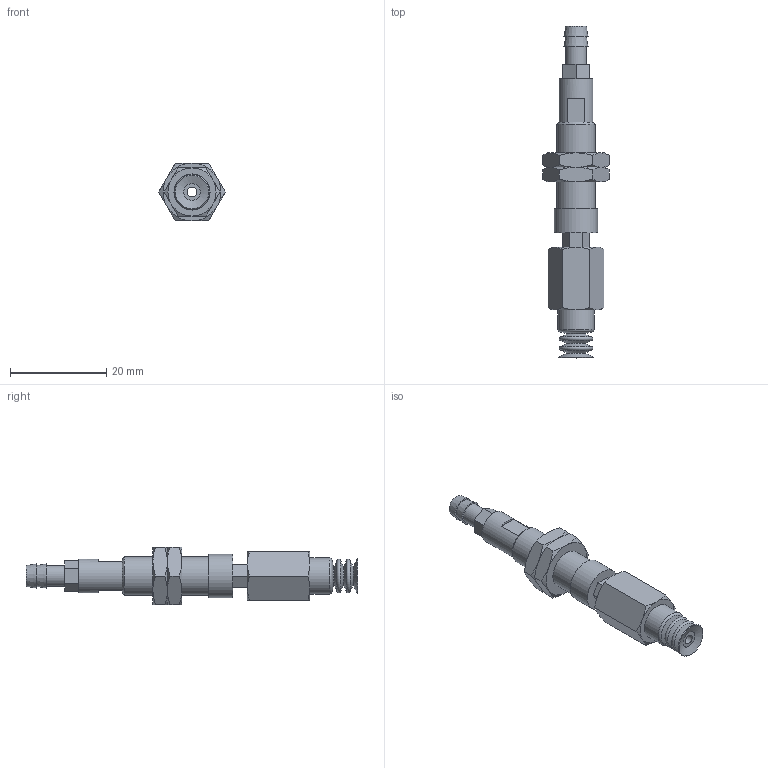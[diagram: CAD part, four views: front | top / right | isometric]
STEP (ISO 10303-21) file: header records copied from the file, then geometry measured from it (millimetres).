
FILE_DESCRIPTION(('STEP AP203'),'1');
FILE_NAME('-T.stp','2025-08-27T01:26:20',(' '),(' '),'Spatial InterOp 3D',' ',' ');
FILE_SCHEMA(('CONFIG_CONTROL_DESIGN'));
Length unit declared in the file: millimetre
Products named in the file (7): BNABPCTH-7-3-※-T; ADAPTER; NAPATH-10A-3--M; Nut napc_h-7-3; NAPCTH-7-3-FBODY; BPCG-7-※; T
Assembly tree (7 placements, depth 2):
  BNABPCTH-7-3-※-T
    ADAPTER
    NAPATH-10A-3--M
    Nut napc_h-7-3  x2
    NAPCTH-7-3-FBODY
    BPCG-7-※
    T
Bounding box: 13.86 x 69 x 12 mm (x, y, z)
Volume: 3508.1 mm3; surface area: 4396 mm2
Topology: 7 solids, 7 shells, 148 faces, 309 edges, 186 vertices
Faces by surface type: plane 65, cone 53, cylinder 17, torus 13
Full cylindrical faces by diameter (mm): 2 x3, 3 x1, 4 x2, 4.134 x1, 4.3 x1, 5 x1, 6 x2, 7 x1, 7.188 x2, 7.5 x1, 8 x1, 9 x1
Entity records: 3602 total; most frequent: CARTESIAN_POINT 789, DIRECTION 520, ORIENTED_EDGE 426, AXIS2_PLACEMENT_3D 222, EDGE_CURVE 213, EDGE_LOOP 192, VERTEX_POINT 155, FACE_OUTER_BOUND 154
